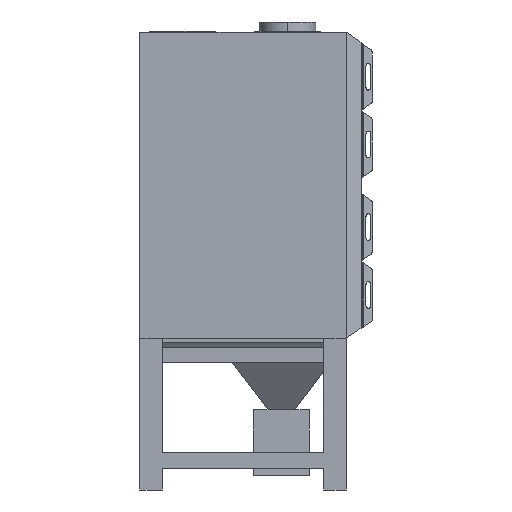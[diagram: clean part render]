
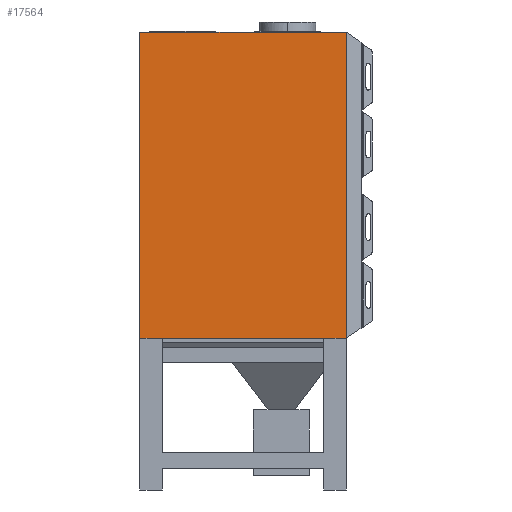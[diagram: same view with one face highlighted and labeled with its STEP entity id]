
A CAD part, left-side view. The second image highlights one B-rep face of the part: STEP entity #17564.
In plain terms, the highlighted free-form (B-spline) face has degree [3, 3] with [4, 4] control points.
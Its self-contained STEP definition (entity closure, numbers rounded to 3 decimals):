
#1627=ORIENTED_EDGE('trim curve',*,*,#2339,.T.);
#1628=ORIENTED_EDGE('trim curve',*,*,#2935,.F.);
#1629=ORIENTED_EDGE('trim curve',*,*,#2936,.F.);
#1630=ORIENTED_EDGE('trim curve',*,*,#2303,.T.);
#1631=ORIENTED_EDGE('trim curve',*,*,#2212,.T.);
#1632=ORIENTED_EDGE('trim curve',*,*,#2302,.T.);
#1689=VERTEX_POINT('Trimming Point',#4764);
#1691=VERTEX_POINT('Trimming Point',#4768);
#1739=VERTEX_POINT('Trimming Point',#5301);
#1743=VERTEX_POINT('Trimming Point',#5384);
#1765=VERTEX_POINT('Trimming Point',#5622);
#2147=VERTEX_POINT('Trimming Point',#16883);
#2212=EDGE_CURVE('Edge Curve',#1691,#1689,#3002,.T.);
#2302=EDGE_CURVE('Edge Curve',#1689,#1739,#3092,.T.);
#2303=EDGE_CURVE('Edge Curve',#1743,#1691,#3093,.T.);
#2339=EDGE_CURVE('Edge Curve',#1739,#1765,#3129,.T.);
#2935=EDGE_CURVE('Edge Curve',#2147,#1765,#3725,.T.);
#2936=EDGE_CURVE('Edge Curve',#1743,#2147,#3726,.T.);
#3002=(
BOUNDED_CURVE()
B_SPLINE_CURVE(3,(#4768,#4769,#4770,#4771),.UNSPECIFIED.,.U.,.U.)
B_SPLINE_CURVE_WITH_KNOTS((4,4),(0.,0.973),.UNSPECIFIED.)
CURVE()
GEOMETRIC_REPRESENTATION_ITEM()
RATIONAL_B_SPLINE_CURVE((1.,1.,1.,1.))
REPRESENTATION_ITEM('node')
);
#3092=(
BOUNDED_CURVE()
B_SPLINE_CURVE(3,(#5411,#5412,#5413,#5414),.UNSPECIFIED.,.U.,.U.)
B_SPLINE_CURVE_WITH_KNOTS((4,4),(0.,0.109),.UNSPECIFIED.)
CURVE()
GEOMETRIC_REPRESENTATION_ITEM()
RATIONAL_B_SPLINE_CURVE((1.,1.,1.,1.))
REPRESENTATION_ITEM('node')
);
#3093=(
BOUNDED_CURVE()
B_SPLINE_CURVE(3,(#5415,#5416,#5417,#5418),.UNSPECIFIED.,.U.,.U.)
B_SPLINE_CURVE_WITH_KNOTS((4,4),(0.,0.109),.UNSPECIFIED.)
CURVE()
GEOMETRIC_REPRESENTATION_ITEM()
RATIONAL_B_SPLINE_CURVE((1.,1.,1.,1.))
REPRESENTATION_ITEM('node')
);
#3129=(
BOUNDED_CURVE()
B_SPLINE_CURVE(1,(#5641,#5642),.UNSPECIFIED.,.U.,.U.)
B_SPLINE_CURVE_WITH_KNOTS((2,2),(0.,218.),.UNSPECIFIED.)
CURVE()
GEOMETRIC_REPRESENTATION_ITEM()
RATIONAL_B_SPLINE_CURVE((1.,1.))
REPRESENTATION_ITEM('node')
);
#3725=(
BOUNDED_CURVE()
B_SPLINE_CURVE(3,(#16884,#16885,#16886,#16887),.UNSPECIFIED.,.U.,.U.)
B_SPLINE_CURVE_WITH_KNOTS((4,4),(0.,1.),.UNSPECIFIED.)
CURVE()
GEOMETRIC_REPRESENTATION_ITEM()
RATIONAL_B_SPLINE_CURVE((1.,1.,1.,1.))
REPRESENTATION_ITEM('node')
);
#3726=(
BOUNDED_CURVE()
B_SPLINE_CURVE(3,(#16920,#16921,#16922,#16923),.UNSPECIFIED.,.U.,.U.)
B_SPLINE_CURVE_WITH_KNOTS((4,4),(0.,1.),.UNSPECIFIED.)
CURVE()
GEOMETRIC_REPRESENTATION_ITEM()
RATIONAL_B_SPLINE_CURVE((1.,1.,1.,1.))
REPRESENTATION_ITEM('node')
);
#4061=EDGE_LOOP('trim boundary',(#1627,#1628,#1629,#1630,#1631,#1632));
#4356=FACE_OUTER_BOUND('Boundary Edges',#4061,.T.);
#4764=CARTESIAN_POINT('CVs',(2295.422,-292.024,1082.));
#4768=CARTESIAN_POINT('CVs',(2295.422,857.976,1082.));
#4769=CARTESIAN_POINT('CVs',(2295.422,474.642,1082.));
#4770=CARTESIAN_POINT('CVs',(2295.422,91.309,1082.));
#4771=CARTESIAN_POINT('CVs',(2295.422,-292.024,1082.));
#5301=CARTESIAN_POINT('CVs',(2295.422,-452.024,1082.));
#5384=CARTESIAN_POINT('CVs',(2295.422,1017.976,1082.));
#5411=CARTESIAN_POINT('CVs',(2295.422,-292.024,1082.));
#5412=CARTESIAN_POINT('CVs',(2295.422,-345.358,1082.));
#5413=CARTESIAN_POINT('CVs',(2295.422,-398.691,1082.));
#5414=CARTESIAN_POINT('CVs',(2295.422,-452.024,1082.));
#5415=CARTESIAN_POINT('CVs',(2295.422,1017.976,1082.));
#5416=CARTESIAN_POINT('CVs',(2295.422,964.642,1082.));
#5417=CARTESIAN_POINT('CVs',(2295.422,911.309,1082.));
#5418=CARTESIAN_POINT('CVs',(2295.422,857.976,1082.));
#5622=CARTESIAN_POINT('CVs',(2295.422,-452.024,3262.));
#5641=CARTESIAN_POINT('CVs',(2295.422,-452.024,1082.));
#5642=CARTESIAN_POINT('CVs',(2295.422,-452.024,3262.));
#16883=CARTESIAN_POINT('CVs',(2295.422,1017.976,3262.));
#16884=CARTESIAN_POINT('CVs',(2295.422,1017.976,3262.));
#16885=CARTESIAN_POINT('CVs',(2295.422,527.976,3262.));
#16886=CARTESIAN_POINT('CVs',(2295.422,37.976,3262.));
#16887=CARTESIAN_POINT('CVs',(2295.422,-452.024,3262.));
#16920=CARTESIAN_POINT('CVs',(2295.422,1017.976,1082.));
#16921=CARTESIAN_POINT('CVs',(2295.422,1017.976,1808.667));
#16922=CARTESIAN_POINT('CVs',(2295.422,1017.976,2535.333));
#16923=CARTESIAN_POINT('CVs',(2295.422,1017.976,3262.));
#16944=CARTESIAN_POINT('CVs',(2295.422,-452.024,1082.));
#16945=CARTESIAN_POINT('CVs',(2295.422,37.976,1082.));
#16946=CARTESIAN_POINT('CVs',(2295.422,527.976,1082.));
#16947=CARTESIAN_POINT('CVs',(2295.422,1017.976,1082.));
#16948=CARTESIAN_POINT('CVs',(2295.422,-452.024,1808.667));
#16949=CARTESIAN_POINT('CVs',(2295.422,37.976,1808.667));
#16950=CARTESIAN_POINT('CVs',(2295.422,527.976,1808.667));
#16951=CARTESIAN_POINT('CVs',(2295.422,1017.976,1808.667));
#16952=CARTESIAN_POINT('CVs',(2295.422,-452.024,2535.333));
#16953=CARTESIAN_POINT('CVs',(2295.422,37.976,2535.333));
#16954=CARTESIAN_POINT('CVs',(2295.422,527.976,2535.333));
#16955=CARTESIAN_POINT('CVs',(2295.422,1017.976,2535.333));
#16956=CARTESIAN_POINT('CVs',(2295.422,-452.024,3262.));
#16957=CARTESIAN_POINT('CVs',(2295.422,37.976,3262.));
#16958=CARTESIAN_POINT('CVs',(2295.422,527.976,3262.));
#16959=CARTESIAN_POINT('CVs',(2295.422,1017.976,3262.));
#17269=(
BOUNDED_SURFACE()
B_SPLINE_SURFACE(3,3,((#16944,#16945,#16946,#16947),(#16948,#16949,#16950,
#16951),(#16952,#16953,#16954,#16955),(#16956,#16957,#16958,#16959)),.UNSPECIFIED.,
 .U.,.U.,.U.)
B_SPLINE_SURFACE_WITH_KNOTS((4,4),(4,4),(0.,1.),(0.,1.),.UNSPECIFIED.)
GEOMETRIC_REPRESENTATION_ITEM()
RATIONAL_B_SPLINE_SURFACE(((1.,1.,1.,1.),(1.,1.,1.,1.),(1.,1.,1.,1.),(1.,
1.,1.,1.)))
REPRESENTATION_ITEM('trim region')
SURFACE()
);
#17564=ADVANCED_FACE('trim region',(#4356),#17269,.T.);
